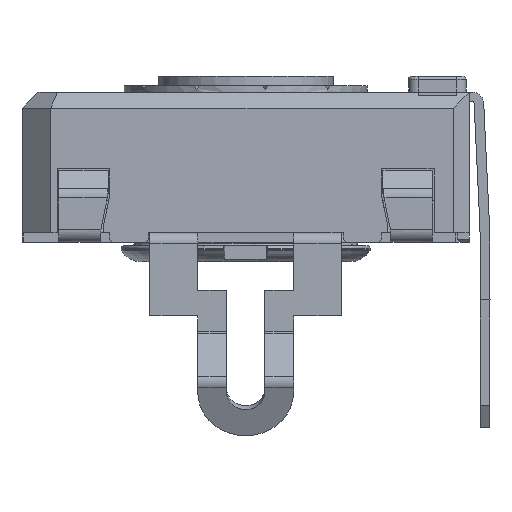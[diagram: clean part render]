
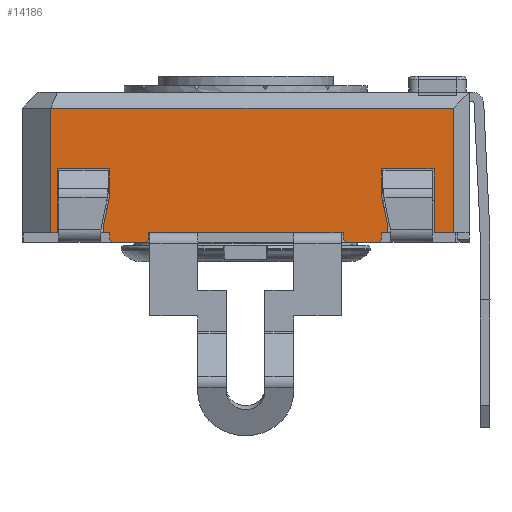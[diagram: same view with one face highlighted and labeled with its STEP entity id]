
A CAD part, left-side view. The second image highlights one B-rep face of the part: STEP entity #14186.
In plain terms, the highlighted planar face has unit normal (-1, 0, 0).
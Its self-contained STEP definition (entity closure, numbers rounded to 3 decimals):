
#1142=FACE_OUTER_BOUND('',#1876,.T.);
#1876=EDGE_LOOP('',(#11406,#11407,#11408,#11409,#11410,#11411,#11412,#11413,
#11414,#11415,#11416,#11417,#11418,#11419,#11420,#11421,#11422,#11423,#11424,
#11425,#11426,#11427,#11428,#11429,#11430,#11431,#11432,#11433));
#2337=LINE('',#19937,#3950);
#2342=LINE('',#19947,#3955);
#2347=LINE('',#19957,#3960);
#2460=LINE('',#20209,#4073);
#3043=LINE('',#21962,#4656);
#3048=LINE('',#21971,#4661);
#3051=LINE('',#21977,#4664);
#3055=LINE('',#21984,#4668);
#3079=LINE('',#22032,#4692);
#3082=LINE('',#22038,#4695);
#3087=LINE('',#22048,#4700);
#3090=LINE('',#22054,#4703);
#3093=LINE('',#22060,#4706);
#3111=LINE('',#22095,#4724);
#3123=LINE('',#22117,#4736);
#3126=LINE('',#22123,#4739);
#3161=LINE('',#22251,#4774);
#3164=LINE('',#22257,#4777);
#3169=LINE('',#22267,#4782);
#3171=LINE('',#22270,#4784);
#3290=LINE('',#22569,#4903);
#3292=LINE('',#22574,#4905);
#3295=LINE('',#22578,#4908);
#3297=LINE('',#22582,#4910);
#3300=LINE('',#22590,#4913);
#3301=LINE('',#22592,#4914);
#3302=LINE('',#22593,#4915);
#3303=LINE('',#22594,#4916);
#3950=VECTOR('',#15991,10.);
#3955=VECTOR('',#15996,10.);
#3960=VECTOR('',#16001,10.);
#4073=VECTOR('',#16218,10.);
#4656=VECTOR('',#17615,10.);
#4661=VECTOR('',#17622,10.);
#4664=VECTOR('',#17627,10.);
#4668=VECTOR('',#17633,10.);
#4692=VECTOR('',#17677,10.);
#4695=VECTOR('',#17682,10.);
#4700=VECTOR('',#17689,10.);
#4703=VECTOR('',#17694,10.);
#4706=VECTOR('',#17699,10.);
#4724=VECTOR('',#17719,10.);
#4736=VECTOR('',#17733,10.);
#4739=VECTOR('',#17738,10.);
#4774=VECTOR('',#17817,10.);
#4777=VECTOR('',#17822,10.);
#4782=VECTOR('',#17829,10.);
#4784=VECTOR('',#17833,10.);
#4903=VECTOR('',#18106,10.);
#4905=VECTOR('',#18110,10.);
#4908=VECTOR('',#18115,10.);
#4910=VECTOR('',#18121,10.);
#4913=VECTOR('',#18132,10.);
#4914=VECTOR('',#18133,10.);
#4915=VECTOR('',#18134,10.);
#4916=VECTOR('',#18135,10.);
#5549=VERTEX_POINT('',#19934);
#5550=VERTEX_POINT('',#19936);
#5554=VERTEX_POINT('',#19944);
#5555=VERTEX_POINT('',#19946);
#5559=VERTEX_POINT('',#19954);
#5560=VERTEX_POINT('',#19956);
#5646=VERTEX_POINT('',#20206);
#5647=VERTEX_POINT('',#20208);
#6157=VERTEX_POINT('',#21959);
#6158=VERTEX_POINT('',#21961);
#6162=VERTEX_POINT('',#21974);
#6165=VERTEX_POINT('',#21982);
#6178=VERTEX_POINT('',#22029);
#6180=VERTEX_POINT('',#22035);
#6184=VERTEX_POINT('',#22045);
#6186=VERTEX_POINT('',#22051);
#6189=VERTEX_POINT('',#22058);
#6205=VERTEX_POINT('',#22093);
#6214=VERTEX_POINT('',#22115);
#6216=VERTEX_POINT('',#22121);
#6240=VERTEX_POINT('',#22254);
#6244=VERTEX_POINT('',#22264);
#6318=VERTEX_POINT('',#22566);
#6319=VERTEX_POINT('',#22568);
#6320=VERTEX_POINT('',#22572);
#6321=VERTEX_POINT('',#22573);
#6322=VERTEX_POINT('',#22589);
#6323=VERTEX_POINT('',#22591);
#6940=EDGE_CURVE('',#5550,#5549,#2337,.T.);
#6945=EDGE_CURVE('',#5555,#5554,#2342,.T.);
#6950=EDGE_CURVE('',#5560,#5559,#2347,.T.);
#7078=EDGE_CURVE('',#5647,#5646,#2460,.T.);
#7851=EDGE_CURVE('',#6158,#6157,#3043,.T.);
#7856=EDGE_CURVE('',#6157,#5560,#3048,.T.);
#7859=EDGE_CURVE('',#5559,#6162,#3051,.T.);
#7863=EDGE_CURVE('',#6165,#6162,#3055,.T.);
#7888=EDGE_CURVE('',#5549,#6178,#3079,.T.);
#7891=EDGE_CURVE('',#6178,#6180,#3082,.T.);
#7896=EDGE_CURVE('',#6180,#6184,#3087,.T.);
#7899=EDGE_CURVE('',#6184,#6186,#3090,.T.);
#7902=EDGE_CURVE('',#6186,#6189,#3093,.T.);
#7920=EDGE_CURVE('',#6189,#6205,#3111,.T.);
#7932=EDGE_CURVE('',#6214,#6205,#3123,.T.);
#7935=EDGE_CURVE('',#6216,#6214,#3126,.T.);
#7982=EDGE_CURVE('',#5647,#6216,#3161,.T.);
#7985=EDGE_CURVE('',#5646,#6240,#3164,.T.);
#7990=EDGE_CURVE('',#6240,#6244,#3169,.T.);
#7992=EDGE_CURVE('',#6244,#6158,#3171,.T.);
#8127=EDGE_CURVE('',#6318,#6319,#3290,.T.);
#8129=EDGE_CURVE('',#6320,#6321,#3292,.T.);
#8132=EDGE_CURVE('',#5550,#6318,#3295,.T.);
#8134=EDGE_CURVE('',#5554,#6321,#3297,.T.);
#8137=EDGE_CURVE('',#6165,#6322,#3300,.T.);
#8138=EDGE_CURVE('',#6323,#6322,#3301,.T.);
#8139=EDGE_CURVE('',#5555,#6323,#3302,.T.);
#8140=EDGE_CURVE('',#6320,#6319,#3303,.T.);
#11406=ORIENTED_EDGE('',*,*,#7856,.T.);
#11407=ORIENTED_EDGE('',*,*,#6950,.T.);
#11408=ORIENTED_EDGE('',*,*,#7859,.T.);
#11409=ORIENTED_EDGE('',*,*,#7863,.F.);
#11410=ORIENTED_EDGE('',*,*,#8137,.T.);
#11411=ORIENTED_EDGE('',*,*,#8138,.F.);
#11412=ORIENTED_EDGE('',*,*,#8139,.F.);
#11413=ORIENTED_EDGE('',*,*,#6945,.T.);
#11414=ORIENTED_EDGE('',*,*,#8134,.T.);
#11415=ORIENTED_EDGE('',*,*,#8129,.F.);
#11416=ORIENTED_EDGE('',*,*,#8140,.T.);
#11417=ORIENTED_EDGE('',*,*,#8127,.F.);
#11418=ORIENTED_EDGE('',*,*,#8132,.F.);
#11419=ORIENTED_EDGE('',*,*,#6940,.T.);
#11420=ORIENTED_EDGE('',*,*,#7888,.T.);
#11421=ORIENTED_EDGE('',*,*,#7891,.T.);
#11422=ORIENTED_EDGE('',*,*,#7896,.T.);
#11423=ORIENTED_EDGE('',*,*,#7899,.T.);
#11424=ORIENTED_EDGE('',*,*,#7902,.T.);
#11425=ORIENTED_EDGE('',*,*,#7920,.T.);
#11426=ORIENTED_EDGE('',*,*,#7932,.F.);
#11427=ORIENTED_EDGE('',*,*,#7935,.F.);
#11428=ORIENTED_EDGE('',*,*,#7982,.F.);
#11429=ORIENTED_EDGE('',*,*,#7078,.T.);
#11430=ORIENTED_EDGE('',*,*,#7985,.T.);
#11431=ORIENTED_EDGE('',*,*,#7990,.T.);
#11432=ORIENTED_EDGE('',*,*,#7992,.T.);
#11433=ORIENTED_EDGE('',*,*,#7851,.T.);
#13259=PLANE('',#15165);
#14186=ADVANCED_FACE('',(#1142),#13259,.T.);
#15165=AXIS2_PLACEMENT_3D('',#22588,#18130,#18131);
#15991=DIRECTION('',(0.,-1.,0.));
#15996=DIRECTION('',(0.,-1.,0.));
#16001=DIRECTION('',(0.,-1.,0.));
#16218=DIRECTION('',(0.,-1.,0.));
#17615=DIRECTION('',(0.,0.208,-0.978));
#17622=DIRECTION('',(0.,0.,-1.));
#17627=DIRECTION('',(0.,0.,-1.));
#17633=DIRECTION('',(0.,0.707,0.707));
#17677=DIRECTION('',(0.,0.,1.));
#17682=DIRECTION('',(0.,0.208,0.978));
#17689=DIRECTION('',(0.,0.,1.));
#17694=DIRECTION('',(0.,-1.,0.));
#17699=DIRECTION('',(0.,0.,-1.));
#17719=DIRECTION('',(0.,-1.,0.));
#17733=DIRECTION('',(0.,0.,-1.));
#17738=DIRECTION('',(0.,-1.,0.));
#17817=DIRECTION('',(0.,0.,1.));
#17822=DIRECTION('',(0.,0.,1.));
#17829=DIRECTION('',(0.,-1.,0.));
#17833=DIRECTION('',(0.,0.,-1.));
#18106=DIRECTION('',(0.,0.707,-0.707));
#18110=DIRECTION('',(0.,0.707,0.707));
#18115=DIRECTION('',(0.,0.,-1.));
#18121=DIRECTION('',(0.,0.,-1.));
#18130=DIRECTION('center_axis',(-1.,0.,0.));
#18131=DIRECTION('ref_axis',(0.,0.,1.));
#18132=DIRECTION('',(0.,-1.,0.));
#18133=DIRECTION('',(0.,0.707,-0.707));
#18134=DIRECTION('',(0.,0.,-1.));
#18135=DIRECTION('',(0.,-1.,0.));
#19934=CARTESIAN_POINT('',(-14.467,-7.348,0.));
#19936=CARTESIAN_POINT('',(-14.467,-7.148,0.));
#19937=CARTESIAN_POINT('',(-14.467,4.102,0.));
#19944=CARTESIAN_POINT('',(-14.467,-5.948,0.));
#19946=CARTESIAN_POINT('',(-14.467,0.152,0.));
#19947=CARTESIAN_POINT('',(-14.467,4.102,0.));
#19954=CARTESIAN_POINT('',(-14.467,1.352,0.));
#19956=CARTESIAN_POINT('',(-14.467,1.552,0.));
#19957=CARTESIAN_POINT('',(-14.467,4.102,0.));
#20206=CARTESIAN_POINT('',(-14.467,3.002,0.));
#20208=CARTESIAN_POINT('',(-14.467,3.202,0.));
#20209=CARTESIAN_POINT('',(-14.467,-2.985,0.));
#21959=CARTESIAN_POINT('',(-14.467,1.552,0.235));
#21961=CARTESIAN_POINT('',(-14.467,1.352,1.176));
#21962=CARTESIAN_POINT('',(-14.467,1.228,1.757));
#21971=CARTESIAN_POINT('',(-14.467,1.552,0.));
#21974=CARTESIAN_POINT('',(-14.467,1.352,-0.2));
#21977=CARTESIAN_POINT('',(-14.467,1.352,0.));
#21982=CARTESIAN_POINT('',(-14.467,1.252,-0.3));
#21984=CARTESIAN_POINT('',(-14.467,-1.436,-2.988));
#22029=CARTESIAN_POINT('',(-14.467,-7.348,0.235));
#22032=CARTESIAN_POINT('',(-14.467,-7.348,0.118));
#22035=CARTESIAN_POINT('',(-14.467,-7.148,1.176));
#22038=CARTESIAN_POINT('',(-14.467,-7.453,-0.254));
#22045=CARTESIAN_POINT('',(-14.467,-7.148,2.));
#22048=CARTESIAN_POINT('',(-14.467,-7.148,0.588));
#22051=CARTESIAN_POINT('',(-14.467,-8.798,2.));
#22054=CARTESIAN_POINT('',(-14.467,-8.523,2.));
#22058=CARTESIAN_POINT('',(-14.467,-8.798,0.));
#22060=CARTESIAN_POINT('',(-14.467,-8.798,0.));
#22093=CARTESIAN_POINT('',(-14.467,-9.398,0.));
#22095=CARTESIAN_POINT('',(-14.467,-9.595,0.));
#22115=CARTESIAN_POINT('',(-14.467,-9.398,3.9));
#22117=CARTESIAN_POINT('',(-14.467,-9.398,0.));
#22121=CARTESIAN_POINT('',(-14.467,3.202,3.9));
#22123=CARTESIAN_POINT('',(-14.467,-6.398,3.9));
#22251=CARTESIAN_POINT('',(-14.467,3.202,0.));
#22254=CARTESIAN_POINT('',(-14.467,3.002,2.));
#22257=CARTESIAN_POINT('',(-14.467,3.002,0.));
#22264=CARTESIAN_POINT('',(-14.467,1.352,2.));
#22267=CARTESIAN_POINT('',(-14.467,-3.448,2.));
#22270=CARTESIAN_POINT('',(-14.467,1.352,1.));
#22566=CARTESIAN_POINT('',(-14.467,-7.148,-0.2));
#22568=CARTESIAN_POINT('',(-14.467,-7.048,-0.3));
#22569=CARTESIAN_POINT('',(-14.467,-7.861,0.513));
#22572=CARTESIAN_POINT('',(-14.467,-6.048,-0.3));
#22573=CARTESIAN_POINT('',(-14.467,-5.948,-0.2));
#22574=CARTESIAN_POINT('',(-14.467,-6.911,-1.163));
#22578=CARTESIAN_POINT('',(-14.467,-7.148,0.));
#22582=CARTESIAN_POINT('',(-14.467,-5.948,0.));
#22588=CARTESIAN_POINT('Origin',(-14.467,-9.898,0.));
#22589=CARTESIAN_POINT('',(-14.467,0.252,-0.3));
#22590=CARTESIAN_POINT('',(-14.467,0.152,-0.3));
#22591=CARTESIAN_POINT('',(-14.467,0.152,-0.2));
#22592=CARTESIAN_POINT('',(-14.467,-2.386,2.338));
#22593=CARTESIAN_POINT('',(-14.467,0.152,0.));
#22594=CARTESIAN_POINT('',(-14.467,-7.148,-0.3));
